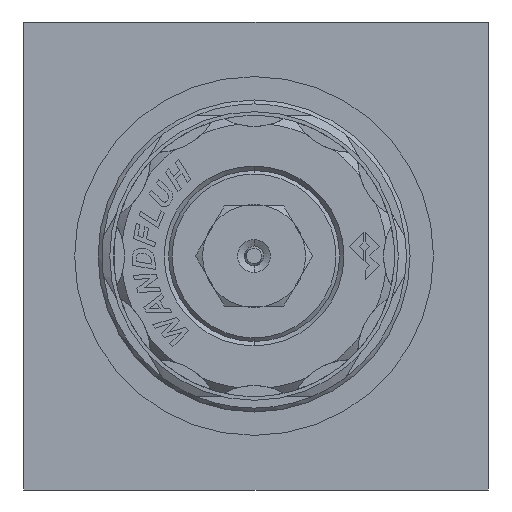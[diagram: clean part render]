
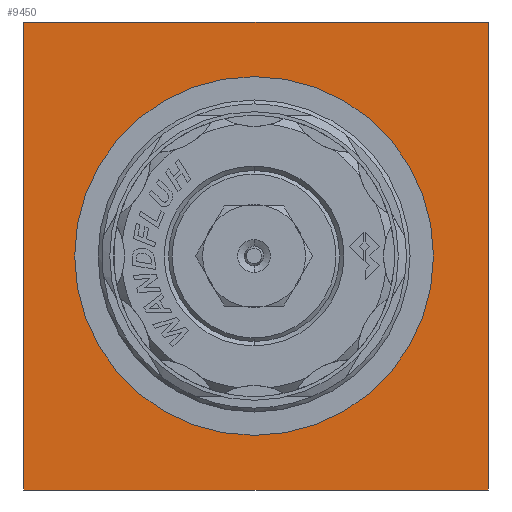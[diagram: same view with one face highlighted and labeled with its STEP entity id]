
A CAD part, left-side view. The second image highlights one B-rep face of the part: STEP entity #9450.
In plain terms, the highlighted planar face has unit normal (-1, 0, 0).
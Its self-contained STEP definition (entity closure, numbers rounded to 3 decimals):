
#355 = DIRECTION ( 'NONE',  ( -1., 0., 0. ) ) ;
#460 = CIRCLE ( 'NONE', #1248, 23. ) ;
#801 = FACE_OUTER_BOUND ( 'NONE', #13599, .T. ) ;
#1248 = AXIS2_PLACEMENT_3D ( 'NONE', #18221, #355, #1819 ) ;
#1819 = DIRECTION ( 'NONE',  ( 0., 0., 1. ) ) ;
#1964 = LINE ( 'NONE', #11229, #3985 ) ;
#2045 = VERTEX_POINT ( 'NONE', #9605 ) ;
#3166 = EDGE_CURVE ( 'NONE', #18149, #4882, #6292, .T. ) ;
#3479 = CARTESIAN_POINT ( 'NONE',  ( 0., -29.75, 30. ) ) ;
#3658 = FACE_BOUND ( 'NONE', #18527, .T. ) ;
#3700 = VERTEX_POINT ( 'NONE', #4958 ) ;
#3903 = ORIENTED_EDGE ( 'NONE', *, *, #7378, .F. ) ;
#3985 = VECTOR ( 'NONE', #14172, 1000. ) ;
#4256 = CARTESIAN_POINT ( 'NONE',  ( 0., 0.25, 23. ) ) ;
#4882 = VERTEX_POINT ( 'NONE', #19247 ) ;
#4904 = ORIENTED_EDGE ( 'NONE', *, *, #15096, .F. ) ;
#4958 = CARTESIAN_POINT ( 'NONE',  ( 0., -29.75, 30. ) ) ;
#5873 = ORIENTED_EDGE ( 'NONE', *, *, #3166, .F. ) ;
#6034 = ORIENTED_EDGE ( 'NONE', *, *, #6287, .F. ) ;
#6287 = EDGE_CURVE ( 'NONE', #3700, #2045, #16714, .T. ) ;
#6292 = CIRCLE ( 'NONE', #13459, 23. ) ;
#7263 = EDGE_CURVE ( 'NONE', #16725, #3700, #14556, .T. ) ;
#7378 = EDGE_CURVE ( 'NONE', #4882, #18149, #460, .T. ) ;
#8238 = EDGE_CURVE ( 'NONE', #2045, #15243, #1964, .T. ) ;
#8658 = DIRECTION ( 'NONE',  ( 0., 0., -1. ) ) ;
#8826 = ORIENTED_EDGE ( 'NONE', *, *, #7263, .F. ) ;
#9450 = ADVANCED_FACE ( 'NONE', ( #801, #3658 ), #16713, .T. ) ;
#9604 = ORIENTED_EDGE ( 'NONE', *, *, #8238, .F. ) ;
#9605 = CARTESIAN_POINT ( 'NONE',  ( 0., -29.75, -30. ) ) ;
#9760 = VECTOR ( 'NONE', #15872, 1000. ) ;
#10654 = CARTESIAN_POINT ( 'NONE',  ( 0., 29.75, 30. ) ) ;
#11088 = AXIS2_PLACEMENT_3D ( 'NONE', #16105, #16087, #16067 ) ;
#11229 = CARTESIAN_POINT ( 'NONE',  ( 0., -29.75, -30. ) ) ;
#12135 = CARTESIAN_POINT ( 'NONE',  ( 0., -29.75, 30. ) ) ;
#13459 = AXIS2_PLACEMENT_3D ( 'NONE', #14551, #14523, #14487 ) ;
#13542 = CARTESIAN_POINT ( 'NONE',  ( 0., 29.75, -30. ) ) ;
#13599 = EDGE_LOOP ( 'NONE', ( #9604, #6034, #8826, #4904 ) ) ;
#14172 = DIRECTION ( 'NONE',  ( 0., 1., 0. ) ) ;
#14296 = VECTOR ( 'NONE', #8658, 1000. ) ;
#14487 = DIRECTION ( 'NONE',  ( 0., 0., 1. ) ) ;
#14523 = DIRECTION ( 'NONE',  ( -1., 0., 0. ) ) ;
#14551 = CARTESIAN_POINT ( 'NONE',  ( 0., 0.25, 0. ) ) ;
#14556 = LINE ( 'NONE', #3479, #9760 ) ;
#15096 = EDGE_CURVE ( 'NONE', #15243, #16725, #18460, .T. ) ;
#15243 = VERTEX_POINT ( 'NONE', #13542 ) ;
#15872 = DIRECTION ( 'NONE',  ( 0., -1., 0. ) ) ;
#16067 = DIRECTION ( 'NONE',  ( 0., 0., 1. ) ) ;
#16087 = DIRECTION ( 'NONE',  ( -1., 0., 0. ) ) ;
#16105 = CARTESIAN_POINT ( 'NONE',  ( 0., 29.75, -30. ) ) ;
#16610 = DIRECTION ( 'NONE',  ( 0., 0., 1. ) ) ;
#16713 = PLANE ( 'NONE',  #11088 ) ;
#16714 = LINE ( 'NONE', #12135, #14296 ) ;
#16725 = VERTEX_POINT ( 'NONE', #10654 ) ;
#17057 = CARTESIAN_POINT ( 'NONE',  ( 0., 29.75, 30. ) ) ;
#18149 = VERTEX_POINT ( 'NONE', #4256 ) ;
#18221 = CARTESIAN_POINT ( 'NONE',  ( 0., 0.25, 0. ) ) ;
#18422 = VECTOR ( 'NONE', #16610, 1000. ) ;
#18460 = LINE ( 'NONE', #17057, #18422 ) ;
#18527 = EDGE_LOOP ( 'NONE', ( #5873, #3903 ) ) ;
#19247 = CARTESIAN_POINT ( 'NONE',  ( 0., 0.25, -23. ) ) ;
